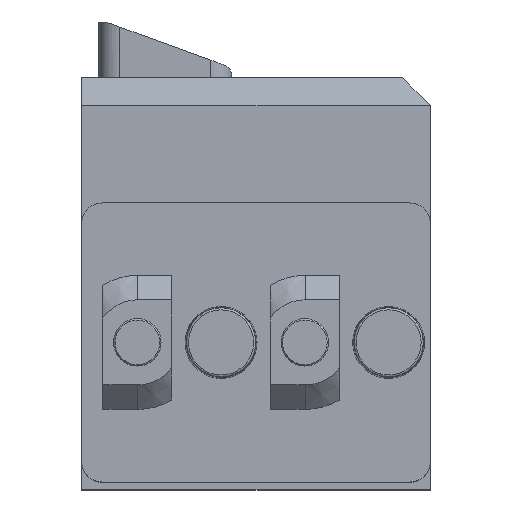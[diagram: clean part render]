
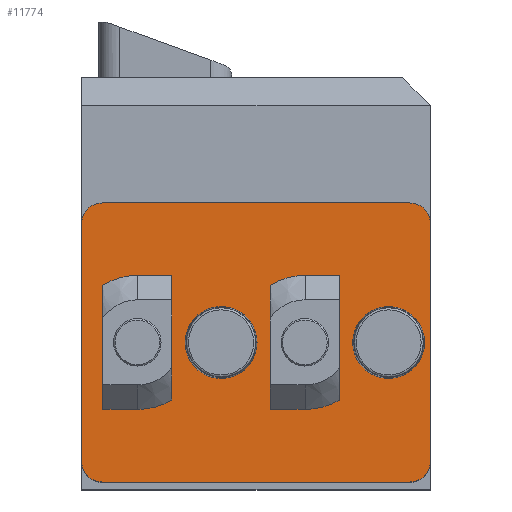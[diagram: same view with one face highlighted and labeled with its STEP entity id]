
A CAD part, top view. The second image highlights one B-rep face of the part: STEP entity #11774.
In plain terms, the highlighted planar face has unit normal (0, 0, 1).
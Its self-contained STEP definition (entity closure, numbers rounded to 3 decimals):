
#117 = PLANE ( 'NONE',  #15345 ) ;
#145 = LINE ( 'NONE', #11372, #13341 ) ;
#272 = ORIENTED_EDGE ( 'NONE', *, *, #6182, .T. ) ;
#336 = EDGE_CURVE ( 'NONE', #4939, #12108, #14813, .T. ) ;
#387 = AXIS2_PLACEMENT_3D ( 'NONE', #1125, #9819, #2378 ) ;
#594 = CARTESIAN_POINT ( 'NONE',  ( 29.5, 0., 56. ) ) ;
#674 = ORIENTED_EDGE ( 'NONE', *, *, #15759, .T. ) ;
#770 = DIRECTION ( 'NONE',  ( 0., 0., 1. ) ) ;
#821 = EDGE_LOOP ( 'NONE', ( #10149 ) ) ;
#1125 = CARTESIAN_POINT ( 'NONE',  ( 0.5, 17., 56. ) ) ;
#1322 = CIRCLE ( 'NONE', #387, 3. ) ;
#1498 = CARTESIAN_POINT ( 'NONE',  ( 0.5, -17., 56. ) ) ;
#1768 = CARTESIAN_POINT ( 'NONE',  ( 0.5, 20., 56. ) ) ;
#1835 = DIRECTION ( 'NONE',  ( 1., 0., 0. ) ) ;
#1900 = EDGE_CURVE ( 'NONE', #12108, #3003, #5659, .T. ) ;
#2066 = DIRECTION ( 'NONE',  ( 0., 0., 1. ) ) ;
#2070 = AXIS2_PLACEMENT_3D ( 'NONE', #9492, #2066, #10756 ) ;
#2161 = FACE_OUTER_BOUND ( 'NONE', #13815, .T. ) ;
#2378 = DIRECTION ( 'NONE',  ( -1., 0., 0. ) ) ;
#2524 = CIRCLE ( 'NONE', #2070, 3. ) ;
#2623 = DIRECTION ( 'NONE',  ( -1., 0., 0. ) ) ;
#2770 = DIRECTION ( 'NONE',  ( -1., 0., 0. ) ) ;
#3003 = VERTEX_POINT ( 'NONE', #8473 ) ;
#3228 = ORIENTED_EDGE ( 'NONE', *, *, #12460, .T. ) ;
#3326 = AXIS2_PLACEMENT_3D ( 'NONE', #1498, #10202, #2770 ) ;
#3436 = DIRECTION ( 'NONE',  ( 0., 1., 0. ) ) ;
#3743 = ORIENTED_EDGE ( 'NONE', *, *, #14652, .T. ) ;
#4272 = CARTESIAN_POINT ( 'NONE',  ( -2.5, -20., 56. ) ) ;
#4332 = DIRECTION ( 'NONE',  ( 1., 0., 0. ) ) ;
#4501 = CARTESIAN_POINT ( 'NONE',  ( 44.5, 20., 56. ) ) ;
#4617 = CIRCLE ( 'NONE', #8617, 5.15 ) ;
#4647 = DIRECTION ( 'NONE',  ( 0., 0., 1. ) ) ;
#4914 = CARTESIAN_POINT ( 'NONE',  ( 0.5, -20., 56. ) ) ;
#4939 = VERTEX_POINT ( 'NONE', #4914 ) ;
#5053 = FACE_BOUND ( 'NONE', #5065, .T. ) ;
#5065 = EDGE_LOOP ( 'NONE', ( #12764 ) ) ;
#5130 = DIRECTION ( 'NONE',  ( -1., 0., 0. ) ) ;
#5147 = DIRECTION ( 'NONE',  ( 0., 0., 1. ) ) ;
#5214 = AXIS2_PLACEMENT_3D ( 'NONE', #8200, #770, #9453 ) ;
#5254 = CARTESIAN_POINT ( 'NONE',  ( -2.5, 17., 56. ) ) ;
#5438 = FACE_BOUND ( 'NONE', #16133, .T. ) ;
#5659 = CIRCLE ( 'NONE', #5214, 3. ) ;
#6008 = VERTEX_POINT ( 'NONE', #15348 ) ;
#6182 = EDGE_CURVE ( 'NONE', #9199, #10900, #1322, .T. ) ;
#6291 = DIRECTION ( 'NONE',  ( 0., 0., 1. ) ) ;
#6602 = VERTEX_POINT ( 'NONE', #8741 ) ;
#6778 = VECTOR ( 'NONE', #12932, 1000. ) ;
#6991 = CARTESIAN_POINT ( 'NONE',  ( 44.5, -20., 56. ) ) ;
#7354 = AXIS2_PLACEMENT_3D ( 'NONE', #12563, #5147, #13824 ) ;
#7443 = CARTESIAN_POINT ( 'NONE',  ( 22.65, 0., 56. ) ) ;
#7775 = VERTEX_POINT ( 'NONE', #7443 ) ;
#8198 = VECTOR ( 'NONE', #4332, 1000. ) ;
#8200 = CARTESIAN_POINT ( 'NONE',  ( 44.5, -17., 56. ) ) ;
#8360 = FACE_BOUND ( 'NONE', #12325, .T. ) ;
#8473 = CARTESIAN_POINT ( 'NONE',  ( 47.5, -17., 56. ) ) ;
#8536 = CIRCLE ( 'NONE', #7354, 4.25 ) ;
#8617 = AXIS2_PLACEMENT_3D ( 'NONE', #12077, #4647, #13317 ) ;
#8741 = CARTESIAN_POINT ( 'NONE',  ( 46.65, 0., 56. ) ) ;
#9027 = ORIENTED_EDGE ( 'NONE', *, *, #14233, .F. ) ;
#9199 = VERTEX_POINT ( 'NONE', #1768 ) ;
#9216 = CARTESIAN_POINT ( 'NONE',  ( -2.5, -20., 56. ) ) ;
#9266 = DIRECTION ( 'NONE',  ( 0., 0., 1. ) ) ;
#9453 = DIRECTION ( 'NONE',  ( -1., 0., 0. ) ) ;
#9492 = CARTESIAN_POINT ( 'NONE',  ( 44.5, 17., 56. ) ) ;
#9559 = VERTEX_POINT ( 'NONE', #13933 ) ;
#9760 = ORIENTED_EDGE ( 'NONE', *, *, #1900, .T. ) ;
#9819 = DIRECTION ( 'NONE',  ( 0., 0., 1. ) ) ;
#9951 = CARTESIAN_POINT ( 'NONE',  ( 33.75, 0., 56. ) ) ;
#10042 = DIRECTION ( 'NONE',  ( 0., 0., -1. ) ) ;
#10094 = CIRCLE ( 'NONE', #10879, 4.25 ) ;
#10140 = VERTEX_POINT ( 'NONE', #4501 ) ;
#10149 = ORIENTED_EDGE ( 'NONE', *, *, #11753, .F. ) ;
#10202 = DIRECTION ( 'NONE',  ( 0., 0., 1. ) ) ;
#10425 = ORIENTED_EDGE ( 'NONE', *, *, #336, .T. ) ;
#10483 = LINE ( 'NONE', #12080, #13760 ) ;
#10716 = VERTEX_POINT ( 'NONE', #9951 ) ;
#10756 = DIRECTION ( 'NONE',  ( -1., 0., 0. ) ) ;
#10879 = AXIS2_PLACEMENT_3D ( 'NONE', #594, #9266, #1835 ) ;
#10900 = VERTEX_POINT ( 'NONE', #5254 ) ;
#11229 = CARTESIAN_POINT ( 'NONE',  ( -2.5, 0., 56. ) ) ;
#11372 = CARTESIAN_POINT ( 'NONE',  ( -2.5, 20., 56. ) ) ;
#11650 = FACE_BOUND ( 'NONE', #821, .T. ) ;
#11753 = EDGE_CURVE ( 'NONE', #7775, #7775, #12038, .T. ) ;
#11774 = ADVANCED_FACE ( 'NONE', ( #11650, #5438, #8360, #2161, #5053 ), #117, .F. ) ;
#12038 = CIRCLE ( 'NONE', #12815, 5.15 ) ;
#12077 = CARTESIAN_POINT ( 'NONE',  ( 41.5, 0., 56. ) ) ;
#12080 = CARTESIAN_POINT ( 'NONE',  ( 47.5, -20., 56. ) ) ;
#12108 = VERTEX_POINT ( 'NONE', #6991 ) ;
#12325 = EDGE_LOOP ( 'NONE', ( #9027 ) ) ;
#12421 = CARTESIAN_POINT ( 'NONE',  ( 9.75, 0., 56. ) ) ;
#12460 = EDGE_CURVE ( 'NONE', #10900, #9559, #13382, .T. ) ;
#12481 = EDGE_CURVE ( 'NONE', #10716, #10716, #10094, .T. ) ;
#12563 = CARTESIAN_POINT ( 'NONE',  ( 5.5, 0., 56. ) ) ;
#12764 = ORIENTED_EDGE ( 'NONE', *, *, #15636, .F. ) ;
#12815 = AXIS2_PLACEMENT_3D ( 'NONE', #13721, #6291, #14987 ) ;
#12932 = DIRECTION ( 'NONE',  ( 0., -1., 0. ) ) ;
#13205 = EDGE_CURVE ( 'NONE', #9559, #4939, #16093, .T. ) ;
#13317 = DIRECTION ( 'NONE',  ( 1., 0., 0. ) ) ;
#13341 = VECTOR ( 'NONE', #5130, 1000. ) ;
#13382 = LINE ( 'NONE', #9216, #6778 ) ;
#13599 = VERTEX_POINT ( 'NONE', #12421 ) ;
#13721 = CARTESIAN_POINT ( 'NONE',  ( 17.5, 0., 56. ) ) ;
#13760 = VECTOR ( 'NONE', #3436, 1000. ) ;
#13815 = EDGE_LOOP ( 'NONE', ( #3228, #15417, #10425, #9760, #3743, #15913, #674, #272 ) ) ;
#13824 = DIRECTION ( 'NONE',  ( 1., 0., 0. ) ) ;
#13933 = CARTESIAN_POINT ( 'NONE',  ( -2.5, -17., 56. ) ) ;
#14233 = EDGE_CURVE ( 'NONE', #13599, #13599, #8536, .T. ) ;
#14550 = EDGE_CURVE ( 'NONE', #6008, #10140, #2524, .T. ) ;
#14652 = EDGE_CURVE ( 'NONE', #3003, #6008, #10483, .T. ) ;
#14813 = LINE ( 'NONE', #4272, #8198 ) ;
#14987 = DIRECTION ( 'NONE',  ( 1., 0., 0. ) ) ;
#15345 = AXIS2_PLACEMENT_3D ( 'NONE', #11229, #10042, #2623 ) ;
#15348 = CARTESIAN_POINT ( 'NONE',  ( 47.5, 17., 56. ) ) ;
#15417 = ORIENTED_EDGE ( 'NONE', *, *, #13205, .T. ) ;
#15636 = EDGE_CURVE ( 'NONE', #6602, #6602, #4617, .T. ) ;
#15759 = EDGE_CURVE ( 'NONE', #10140, #9199, #145, .T. ) ;
#15913 = ORIENTED_EDGE ( 'NONE', *, *, #14550, .T. ) ;
#16018 = ORIENTED_EDGE ( 'NONE', *, *, #12481, .F. ) ;
#16093 = CIRCLE ( 'NONE', #3326, 3. ) ;
#16133 = EDGE_LOOP ( 'NONE', ( #16018 ) ) ;
